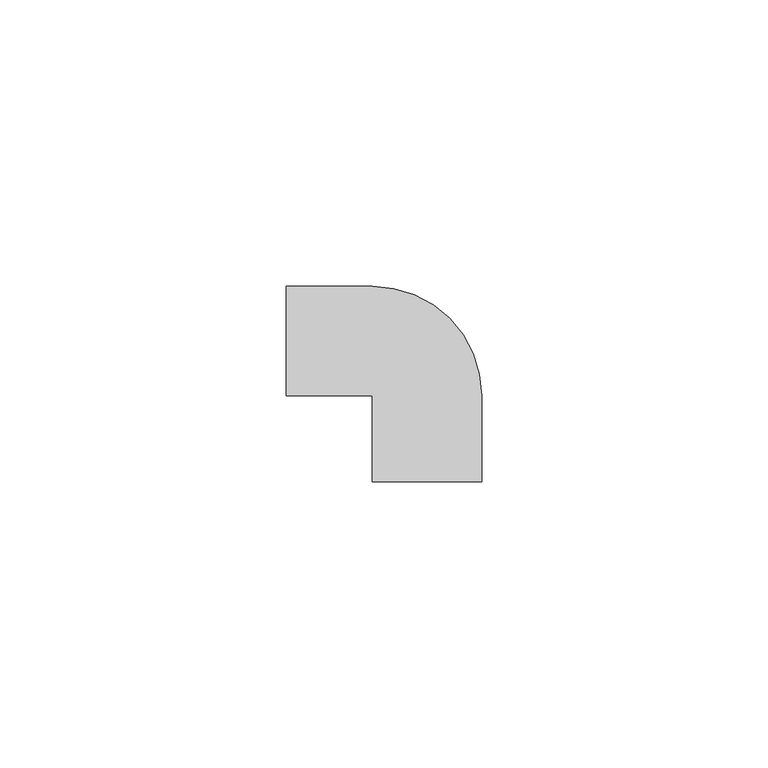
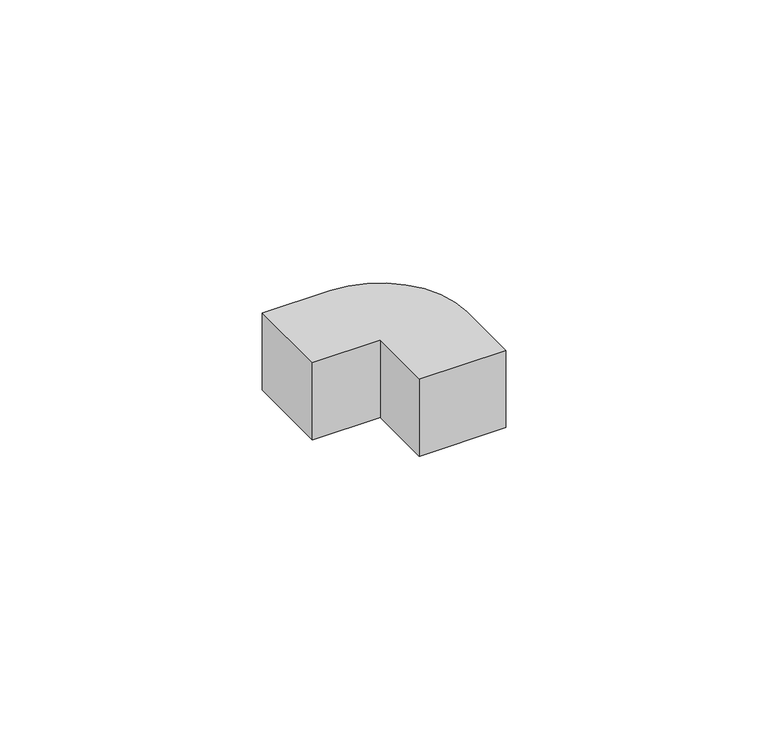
"""IFC4 building model written with IfcOpenShell, lengths in millimetres: proxy geometry, Внешний_угол_КМН : Внешний угол КМН 16х16."""

from ifc_helpers import new_model, si_unit, point, origin, origin_with_axes, origin_2d, place, context, project, spatial, polyline, circle_curve, trimmed, segment, composite_curve, outline, extrude, source, transform, mapped, element, save


def generic_models_8934a4b0(model_context):
    return source(origin(), model_context, "Body", "SweptSolid", [
        extrude(outline(composite_curve([segment(polyline([(-15.0, 0.0), (-15.0, 19.037256), (0.0, 19.037256)]), True, "CONTINUOUS"), segment(trimmed(circle_curve(origin_2d(), 19.037256), [point((0.0, 19.037256))], [point((19.037256, 0.0))], False, "CARTESIAN"), True, "CONTINUOUS"), segment(polyline([(19.037256, 0.0), (19.037256, -15.0), (0.0, -15.0), (0.0, 0.0), (-15.0, 0.0)]), True, "CONTINUOUS")], self_intersect=False)), origin_with_axes(), (0.0, 0.0, 1.0), 17.9770043),
    ])


if __name__ == "__main__":
    model = new_model("IFC4")
    model_context = context("Model", 3, world=origin())
    ifc_project = project(units=[si_unit("LENGTHUNIT", "METRE", prefix="MILLI")], contexts=[model_context])
    site = spatial("IfcSite", under=ifc_project)
    building = spatial("IfcBuilding", under=site)
    placement = place(None, origin())
    generic_models_shape = generic_models_8934a4b0(model_context)
    element("IfcBuildingElementProxy", 1, Name="Внешний_угол_КМН : Внешний угол КМН 16х16", ObjectType="Внешний_угол_КМН : Внешний угол КМН 16х16", at=placement, inside=building, context=model_context, shape_type="MappedRepresentation", body=[
        mapped(generic_models_shape, transform((0.0, 0.0, 0.0), x_axis=(1.0, 0.0, 0.0), y_axis=(0.0, 1.0, 0.0), z_axis=(0.0, 0.0, 1.0))),
    ])
    save(model, "model.ifc")
